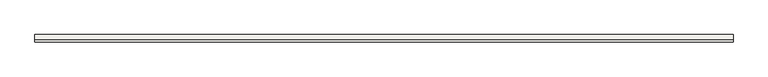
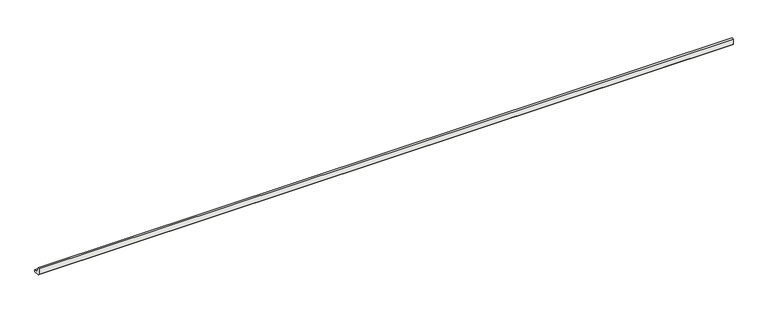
"""IFC4 building model written with IfcOpenShell, lengths in millimetres: slab geometry, ROSA GRES_188 : Pieza 188_Tao_Beige_Liso."""

from ifc_helpers import new_model, si_unit, point, frame, frame_2d, origin, place, context, project, spatial, polyline, circle_curve, trimmed, segment, composite_curve, outline, extrude, source, transform, mapped, element, save


def slab_2114b75f(model_context):
    return source(origin(), model_context, "Body", "SweptSolid", [
        extrude(outline(composite_curve([segment(polyline([(0.0, 8.7114978), (0.0, 40.0), (9.9734114, 40.0)]), True, "CONTINUOUS"), segment(trimmed(circle_curve(frame_2d((39.9955547, 39.9955547)), 30.0221435), [point((9.9734114, 40.0))], [point((40.0, 9.9734114))], True, "CARTESIAN"), True, "CONTINUOUS"), segment(polyline([(40.0, 9.9734114), (40.0, 0.0), (8.7114978, 0.0), (0.0, 8.7114978)]), True, "CONTINUOUS")], self_intersect=False)), frame((0.0, 0.0, 0.0), z_axis=(1.0, 0.0, 0.0), x_axis=(0.0, 1.0, 0.0)), (0.0, 0.0, 1.0), 3883.1163433),
    ])


if __name__ == "__main__":
    model = new_model("IFC4")
    model_context = context("Model", 3, world=origin())
    ifc_project = project(units=[si_unit("LENGTHUNIT", "METRE", prefix="MILLI")], contexts=[model_context])
    site = spatial("IfcSite", under=ifc_project)
    building = spatial("IfcBuilding", under=site)
    placement = place(None, origin())
    slab_shape = slab_2114b75f(model_context)
    element("IfcSlab", 1, ObjectType="ROSA GRES_188 : Pieza 188_Tao_Beige_Liso", at=placement, inside=building, context=model_context, shape_type="MappedRepresentation", body=[
        mapped(slab_shape, transform((0.0, 0.0, 0.0), x_axis=(1.0, 0.0, 0.0), y_axis=(0.0, 1.0, 0.0), z_axis=(0.0, 0.0, 1.0))),
    ])
    save(model, "model.ifc")
